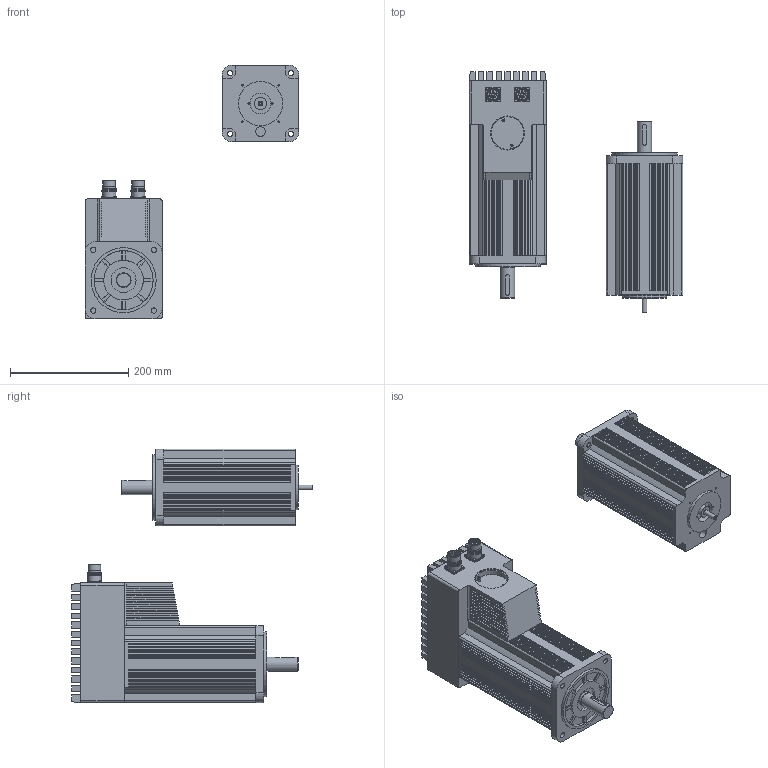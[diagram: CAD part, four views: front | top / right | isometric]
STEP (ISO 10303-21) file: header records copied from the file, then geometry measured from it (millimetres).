
FILE_DESCRIPTION( ( 'Unknown' ), '1' );
FILE_NAME( 'K:/JVL/MACxxx/MAC1500_3000/CAD internet tegninger/STEP/Step/MAC3000-D4.stp', 'Unknown', ( 'Unknown' ), ( 'Unknown' ), 'PSStep 11.0', 'Unknown', ' ' );
FILE_SCHEMA( ( 'AUTOMOTIVE_DESIGN { 1 0 10303 214 1 1 1 1 }' ) );
Length unit declared in the file: millimetre
Products named in the file (3): Assem1; D1 D4 hus uden motor; MSE3K0-00001B MAC3000D5MOTOR
Bounding box: 361.74 x 407.5 x 429.36 mm (x, y, z)
Volume: 12026514.6 mm3; surface area: 1025504.9 mm2
Topology: 4 solids, 4 shells, 2438 faces, 5930 edges, 3934 vertices
Faces by surface type: plane 2064, cylinder 360, sphere 10, torus 4
Full cylindrical faces by diameter (mm): 2 x20, 2.013 x4, 2.459 x12, 3.242 x2, 4.5 x16, 4.6 x4, 8 x2, 9 x8, 10 x2, 16 x2, 18 x2, 19.8 x2, 20 x6, 21.6 x4, 22.6 x4, 22.9 x4, 23.3 x4, 24 x2, 24.5 x4, 25 x2, 35 x2, 42 x2, 55.1 x2, 57.6 x2, 67 x2, 75 x2, 100 x2, 110 x2
Entity records: 44638 total; most frequent: CARTESIAN_POINT 6256, ORIENTED_EDGE 5738, DIRECTION 5644, EDGE_CURVE 2869, LINE 2470, VECTOR 2470, VERTEX_POINT 1939, AXIS2_PLACEMENT_3D 1587
